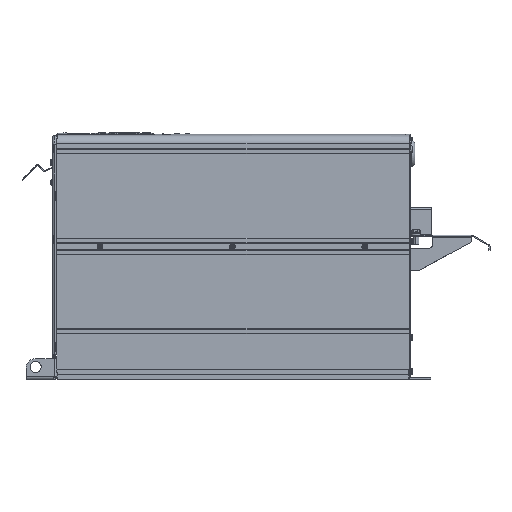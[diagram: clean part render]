
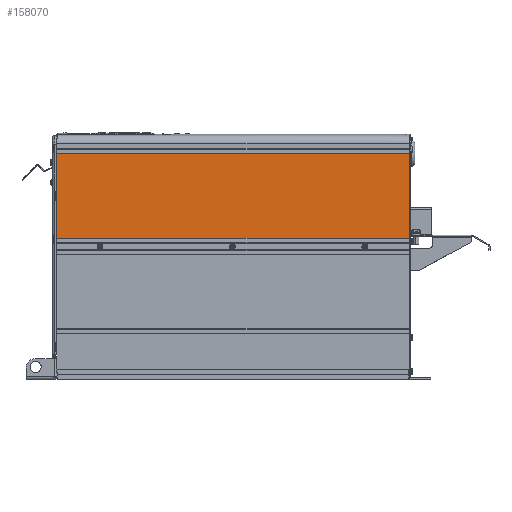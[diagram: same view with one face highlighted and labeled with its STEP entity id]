
A CAD part, left-side view. The second image highlights one B-rep face of the part: STEP entity #158070.
In plain terms, the highlighted planar face has unit normal (-1, 0, 0).
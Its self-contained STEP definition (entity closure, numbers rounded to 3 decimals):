
#3624=DIRECTION('',(0.,0.,-1.));
#3625=VECTOR('',#3624,12.);
#3626=CARTESIAN_POINT('',(-151.5,236.875,255.5));
#3627=LINE('',#3626,#3625);
#17560=DIRECTION('',(0.,0.,1.));
#17561=VECTOR('',#17560,3.);
#17562=CARTESIAN_POINT('',(-151.5,-241.625,193.5));
#17563=LINE('',#17562,#17561);
#36345=DIRECTION('',(0.,-1.,0.));
#36346=VECTOR('',#36345,478.5);
#36347=CARTESIAN_POINT('',(-151.5,236.875,191.6));
#36348=LINE('',#36347,#36346);
#36349=DIRECTION('',(0.,0.,-1.));
#36350=VECTOR('',#36349,51.9);
#36351=CARTESIAN_POINT('',(-151.5,236.875,243.5));
#36352=LINE('',#36351,#36350);
#36353=DIRECTION('',(0.,0.,-1.));
#36354=VECTOR('',#36353,51.5);
#36355=CARTESIAN_POINT('',(-151.5,236.875,307.));
#36356=LINE('',#36355,#36354);
#36357=DIRECTION('',(0.,1.,0.));
#36358=VECTOR('',#36357,478.5);
#36359=CARTESIAN_POINT('',(-151.5,-241.625,307.));
#36360=LINE('',#36359,#36358);
#36361=DIRECTION('',(0.,0.,-1.));
#36362=VECTOR('',#36361,110.5);
#36363=CARTESIAN_POINT('',(-151.5,-241.625,307.));
#36364=LINE('',#36363,#36362);
#36365=DIRECTION('',(0.,0.,1.));
#36366=VECTOR('',#36365,1.9);
#36367=CARTESIAN_POINT('',(-151.5,-241.625,191.6));
#36368=LINE('',#36367,#36366);
#99626=CARTESIAN_POINT('',(-151.5,236.875,243.5));
#99627=VERTEX_POINT('',#99626);
#99672=CARTESIAN_POINT('',(-151.5,236.875,255.5));
#99673=VERTEX_POINT('',#99672);
#100353=CARTESIAN_POINT('',(-151.5,-241.625,196.5));
#100355=VERTEX_POINT('',#100353);
#101390=CARTESIAN_POINT('',(-151.5,-241.625,193.5));
#101392=VERTEX_POINT('',#101390);
#103593=CARTESIAN_POINT('',(-151.5,-241.625,307.));
#103594=CARTESIAN_POINT('',(-151.5,236.875,307.));
#103595=VERTEX_POINT('',#103593);
#103596=VERTEX_POINT('',#103594);
#103601=CARTESIAN_POINT('',(-151.5,236.875,191.6));
#103602=CARTESIAN_POINT('',(-151.5,-241.625,191.6));
#103603=VERTEX_POINT('',#103601);
#103604=VERTEX_POINT('',#103602);
#158051=CARTESIAN_POINT('',(-151.5,236.875,320.));
#158052=DIRECTION('',(-1.,0.,0.));
#158053=DIRECTION('',(0.,0.,-1.));
#158054=AXIS2_PLACEMENT_3D('',#158051,#158052,#158053);
#158055=PLANE('',#158054);
#158057=ORIENTED_EDGE('',*,*,#158056,.F.);
#158059=ORIENTED_EDGE('',*,*,#158058,.F.);
#158060=ORIENTED_EDGE('',*,*,#115656,.F.);
#158062=ORIENTED_EDGE('',*,*,#158061,.F.);
#158064=ORIENTED_EDGE('',*,*,#158063,.F.);
#158065=ORIENTED_EDGE('',*,*,#149468,.T.);
#158066=ORIENTED_EDGE('',*,*,#139524,.F.);
#158067=ORIENTED_EDGE('',*,*,#114497,.F.);
#158068=EDGE_LOOP('',(#158057,#158059,#158060,#158062,#158064,#158065,#158066,
#158067));
#158069=FACE_OUTER_BOUND('',#158068,.F.);
#158070=ADVANCED_FACE('',(#158069),#158055,.T.);
#114497=EDGE_CURVE('',#103604,#101392,#36368,.T.);
#115656=EDGE_CURVE('',#99673,#99627,#3627,.T.);
#139524=EDGE_CURVE('',#101392,#100355,#17563,.T.);
#149468=EDGE_CURVE('',#103595,#100355,#36364,.T.);
#158056=EDGE_CURVE('',#103603,#103604,#36348,.T.);
#158058=EDGE_CURVE('',#99627,#103603,#36352,.T.);
#158061=EDGE_CURVE('',#103596,#99673,#36356,.T.);
#158063=EDGE_CURVE('',#103595,#103596,#36360,.T.);
